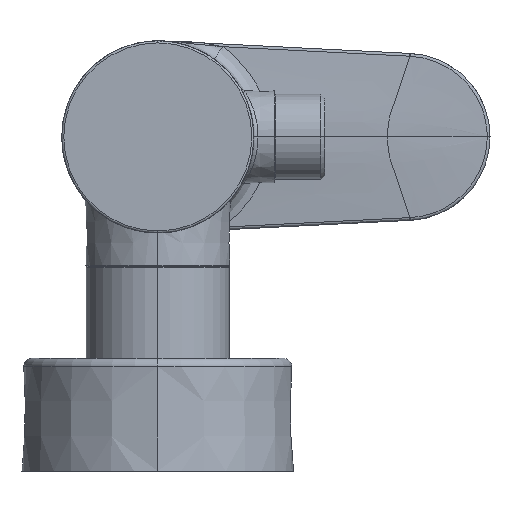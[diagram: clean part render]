
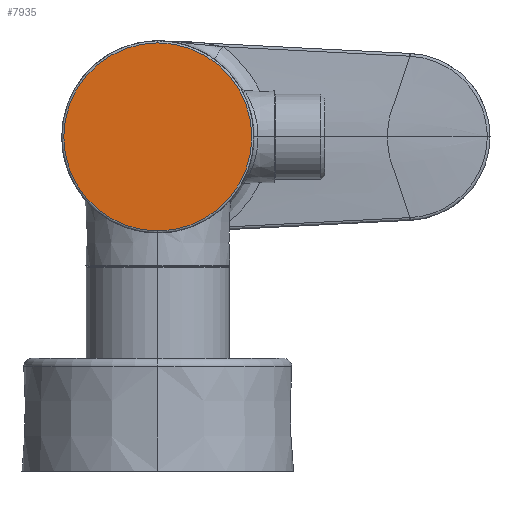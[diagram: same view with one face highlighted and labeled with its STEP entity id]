
A CAD part, left-side view. The second image highlights one B-rep face of the part: STEP entity #7935.
In plain terms, the highlighted planar face has unit normal (-1, 0, 0).
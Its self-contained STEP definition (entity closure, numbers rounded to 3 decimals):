
#2650=CARTESIAN_POINT('',(-128.,0.,0.));
#2651=DIRECTION('',(-1.,0.,0.));
#2652=DIRECTION('',(0.,0.,-1.));
#2653=AXIS2_PLACEMENT_3D('',#2650,#2651,#2652);
#2655=CARTESIAN_POINT('',(-128.,0.,0.));
#2656=DIRECTION('',(-1.,0.,0.));
#2657=DIRECTION('',(0.,0.,1.));
#2658=AXIS2_PLACEMENT_3D('',#2655,#2656,#2657);
#4359=CARTESIAN_POINT('',(-128.,0.,-22.5));
#4360=CARTESIAN_POINT('',(-128.,0.,22.5));
#4361=VERTEX_POINT('',#4359);
#4362=VERTEX_POINT('',#4360);
#7925=CARTESIAN_POINT('',(-128.,0.,0.));
#7926=DIRECTION('',(1.,0.,0.));
#7927=DIRECTION('',(0.,0.,-1.));
#7928=AXIS2_PLACEMENT_3D('',#7925,#7926,#7927);
#7929=PLANE('',#7928);
#7931=ORIENTED_EDGE('',*,*,#7930,.F.);
#7932=ORIENTED_EDGE('',*,*,#7915,.F.);
#7933=EDGE_LOOP('',(#7931,#7932));
#7934=FACE_OUTER_BOUND('',#7933,.F.);
#7935=ADVANCED_FACE('',(#7934),#7929,.F.);
#2654=CIRCLE('',#2653,22.5);
#2659=CIRCLE('',#2658,22.5);
#7915=EDGE_CURVE('',#4362,#4361,#2659,.T.);
#7930=EDGE_CURVE('',#4361,#4362,#2654,.T.);
